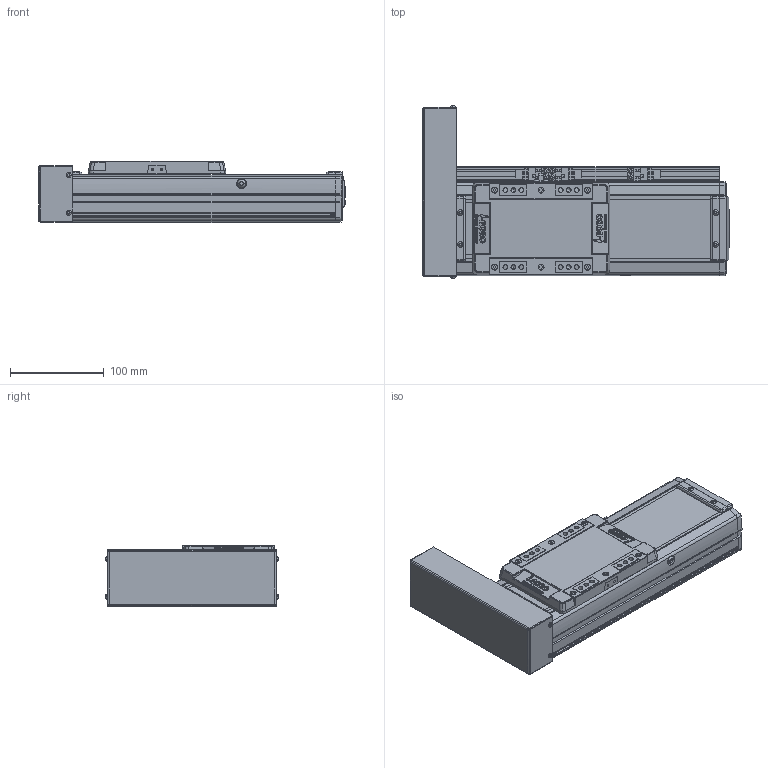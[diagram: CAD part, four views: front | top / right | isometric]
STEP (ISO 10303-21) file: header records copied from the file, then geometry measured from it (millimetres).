
FILE_DESCRIPTION(('STEP AP214'),'1');
FILE_NAME('Z:/Web/3D/SAN100/SAN100 양산용 (STEP)/SAN100ㅁㅁ-100PL+3SL.stp','2013-04-24T06:12:40',(' '),(' '),'Spatial InterOp 3D',' ',' ');
FILE_SCHEMA(('automotive_design'));
Length unit declared in the file: millimetre
Products named in the file (47): SGD-SAN100; M3.0 x 6.0; SRL-16x17-380L; EE-SX674; SBK-SX674-352; 스크루 : Round - M3.0 x 6.0; SUS COVER; SFX-SAN100; RRCV-SAN100; 스크루 : Round - M4.0 x 10.0; FRBL-SAN100; SLBL-SAN100; SLCV-SAN100; 스크루 : Countersunk - M3.0 x 6.0; BASE; 스크루 : Round - M5.0 x 6.0; BTCV-SAN65; BHCS M3 X 6L
Bounding box: 326.5 x 184.13 x 66 mm (x, y, z)
Volume: 1336112.7 mm3; surface area: 343197.5 mm2
Topology: 47 solids, 48 shells, 2271 faces, 5914 edges, 3835 vertices
Faces by surface type: plane 1254, cylinder 749, cone 174, sphere 60, torus 18, bspline 16
Entity records: 89384 total; most frequent: CARTESIAN_POINT 13177, DIRECTION 12425, ORIENTED_EDGE 11680, EDGE_CURVE 5840, AXIS2_PLACEMENT_3D 4352, VERTEX_POINT 3835, LINE 3721, VECTOR 3721
